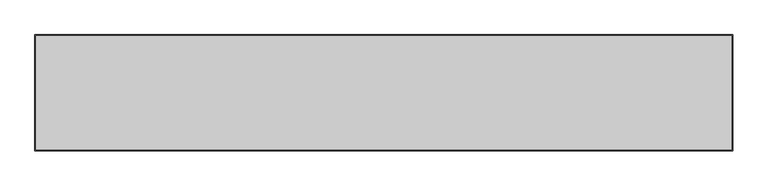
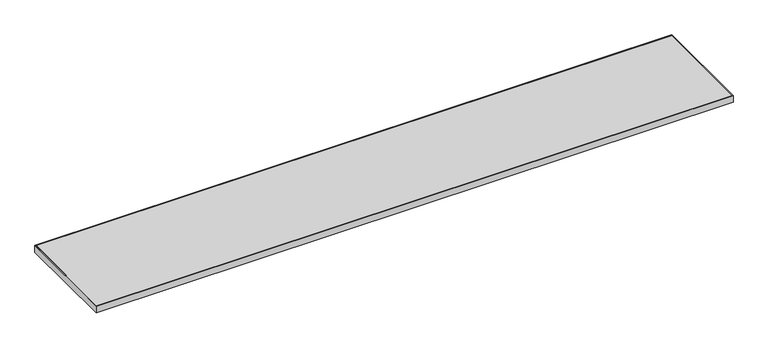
"""IFC4 building model written with IfcOpenShell, lengths in millimetres: furniture geometry, Steelcase - Universal Storage - Square Edge Top - Flush Front - Laminate : Common Top - 18D x 108W."""

from ifc_helpers import new_model, si_unit, frame, origin, place, context, project, spatial, polyline, outline, extrude, source, transform, mapped, element, save


def furniture_d8a6b1e9(model_context):
    return source(origin(), model_context, "Body", "SweptSolid", [
        extrude(outline(polyline([(2740.1520001, -3.0479999), (2740.1520001, -454.1520001), (3.0479999, -454.1520001), (3.0479999, -3.0479999), (2740.1520001, -3.0479999)])), frame((0.0, 0.0, 680.72), z_axis=(0.0, 0.0, 1.0), x_axis=(1.0, 0.0, 0.0)), (0.0, 0.0, 1.0), 30.48),
        extrude(outline(polyline([(2743.2, 0.0), (2743.2, -457.2), (0.0, -457.2), (0.0, 0.0), (2743.2, 0.0)]), holes=[polyline([(2740.1520001, -3.0479999), (3.0479999, -3.0479999), (3.0479999, -454.1520001), (2740.1520001, -454.1520001), (2740.1520001, -3.0479999)])]), frame((0.0, 0.0, 680.72), z_axis=(0.0, 0.0, 1.0), x_axis=(1.0, 0.0, 0.0)), (0.0, 0.0, 1.0), 30.48),
    ])


if __name__ == "__main__":
    model = new_model("IFC4")
    model_context = context("Model", 3, world=origin())
    ifc_project = project(units=[si_unit("LENGTHUNIT", "METRE", prefix="MILLI")], contexts=[model_context])
    site = spatial("IfcSite", under=ifc_project)
    building = spatial("IfcBuilding", under=site)
    placement = place(None, origin())
    furniture_shape = furniture_d8a6b1e9(model_context)
    element("IfcFurniture", 1, ObjectType="Steelcase - Universal Storage - Square Edge Top - Flush Front - Laminate : Common Top - 18D x 108W", at=placement, inside=building, context=model_context, shape_type="MappedRepresentation", body=[
        mapped(furniture_shape, transform((0.0, 0.0, 0.0), x_axis=(1.0, 0.0, 0.0), y_axis=(0.0, 1.0, 0.0), z_axis=(0.0, 0.0, 1.0))),
    ])
    save(model, "model.ifc")
